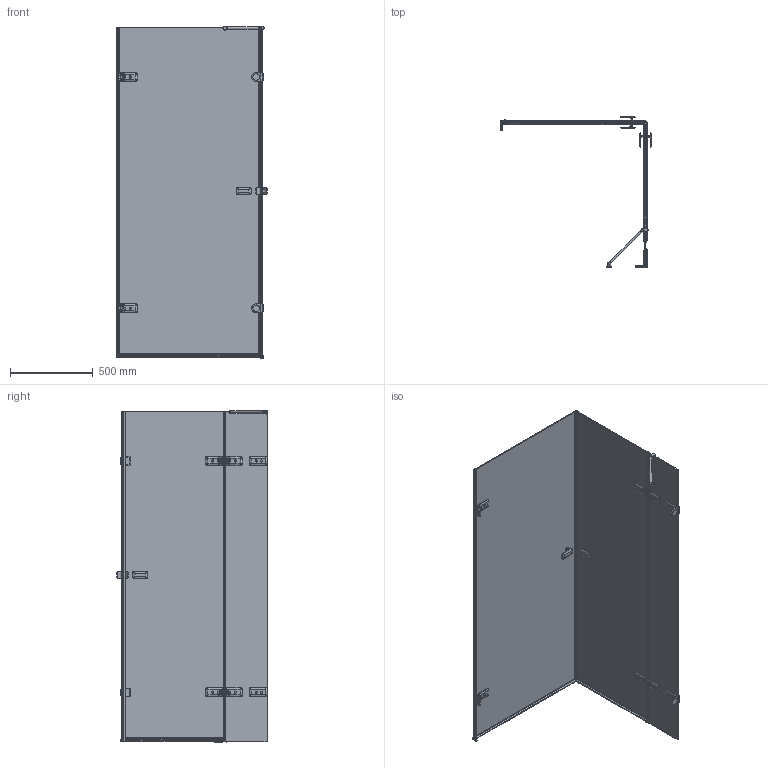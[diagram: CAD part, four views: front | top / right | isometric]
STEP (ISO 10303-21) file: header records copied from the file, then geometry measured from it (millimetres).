
FILE_DESCRIPTION(/* description */ (''),/* implementation_level */ '2;1');
FILE_NAME(/* name */ 'D:\!\! 1 Сначала\77\TREND SQUARE GK-863B\TREND SQUARE GK-863B правая модель\TREND SQUARE GK-863B ПРАВАЯ-3D.stp',/* time_stamp */ '2021-01-18T17:15:36+03:00',/* author */ ('User'),/* organization */ (''),/* preprocessor_version */ 'ST-DEVELOPER v15.2',/* originating_system */ 'Autodesk Inventor 2014',/* authorisation */ '');
FILE_SCHEMA (('AUTOMOTIVE_DESIGN { 1 0 10303 214 3 1 1 }'));
Products named in the file (1): TREND SQUARE GK-863B ПРАВАЯ-
3D
Bounding box: 911.5 x 912.6 x 2009.49 mm (x, y, z)
Volume: 22196791.9 mm3; surface area: 7695966.3 mm2
Topology: 12 solids, 12 shells, 2208 faces, 5961 edges, 3766 vertices
Faces by surface type: plane 1241, cylinder 628, bspline 204, torus 66, cone 51, sphere 18
Full cylindrical faces by diameter (mm): 4 x4, 5 x12, 5.2 x4, 6 x8, 7.2 x8, 8 x4, 9 x8, 11 x4, 12 x2, 13 x4, 15 x1, 16 x4, 20 x2, 26 x1, 40 x2
Entity records: 89410 total; most frequent: CARTESIAN_POINT 33087, ORIENTED_EDGE 11458, DIRECTION 10855, EDGE_CURVE 5719, VERTEX_POINT 3716, AXIS2_PLACEMENT_3D 3634, LINE 3587, VECTOR 3587
